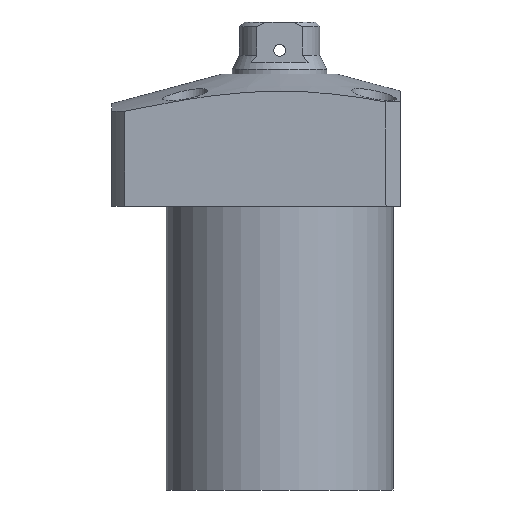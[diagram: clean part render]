
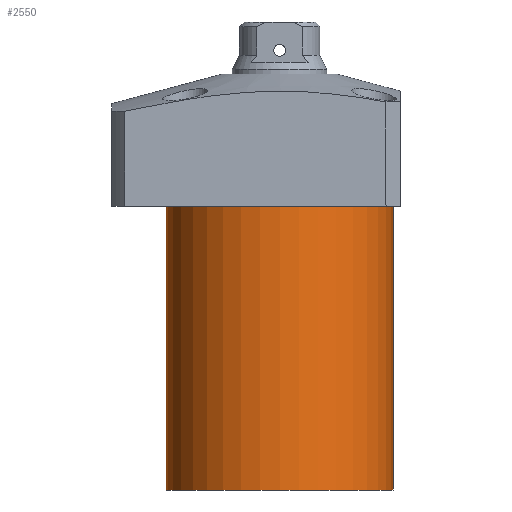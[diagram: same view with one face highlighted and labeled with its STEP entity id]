
A CAD part, front view. The second image highlights one B-rep face of the part: STEP entity #2550.
In plain terms, the highlighted cylindrical face has radius 24 mm (diameter 48 mm), a partial arc.
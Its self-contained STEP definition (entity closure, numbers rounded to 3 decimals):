
#20 = CARTESIAN_POINT ( 'NONE',  ( -24., 0., -74. ) ) ;
#39 = DIRECTION ( 'NONE',  ( 0., 0., 1. ) ) ;
#48 = VERTEX_POINT ( 'NONE', #786 ) ;
#232 = AXIS2_PLACEMENT_3D ( 'NONE', #409, #817, #1244 ) ;
#243 = ORIENTED_EDGE ( 'NONE', *, *, #276, .T. ) ;
#276 = EDGE_CURVE ( 'NONE', #2028, #1874, #2516, .T. ) ;
#409 = CARTESIAN_POINT ( 'NONE',  ( 0., 0., -74. ) ) ;
#476 = CIRCLE ( 'NONE', #232, 24. ) ;
#479 = ORIENTED_EDGE ( 'NONE', *, *, #2501, .T. ) ;
#594 = CARTESIAN_POINT ( 'NONE',  ( 24., 0., -14. ) ) ;
#674 = DIRECTION ( 'NONE',  ( 1., 0., 0. ) ) ;
#747 = VERTEX_POINT ( 'NONE', #749 ) ;
#749 = CARTESIAN_POINT ( 'NONE',  ( -24., 0., -74. ) ) ;
#752 = AXIS2_PLACEMENT_3D ( 'NONE', #885, #39, #674 ) ;
#786 = CARTESIAN_POINT ( 'NONE',  ( -24., 0., -14. ) ) ;
#817 = DIRECTION ( 'NONE',  ( 0., 0., -1. ) ) ;
#885 = CARTESIAN_POINT ( 'NONE',  ( 0., 0., -74. ) ) ;
#917 = DIRECTION ( 'NONE',  ( 0., 0., 1. ) ) ;
#988 = CARTESIAN_POINT ( 'NONE',  ( 24., 0., -74. ) ) ;
#1148 = FACE_OUTER_BOUND ( 'NONE', #2394, .T. ) ;
#1219 = AXIS2_PLACEMENT_3D ( 'NONE', #2523, #1489, #1289 ) ;
#1244 = DIRECTION ( 'NONE',  ( -1., 0., 0. ) ) ;
#1289 = DIRECTION ( 'NONE',  ( 1., 0., 0. ) ) ;
#1459 = ORIENTED_EDGE ( 'NONE', *, *, #1899, .F. ) ;
#1489 = DIRECTION ( 'NONE',  ( 0., 0., -1. ) ) ;
#1635 = DIRECTION ( 'NONE',  ( 0., 0., 1. ) ) ;
#1649 = EDGE_CURVE ( 'NONE', #2028, #747, #476, .T. ) ;
#1874 = VERTEX_POINT ( 'NONE', #594 ) ;
#1899 = EDGE_CURVE ( 'NONE', #747, #48, #1901, .T. ) ;
#1901 = LINE ( 'NONE', #20, #2135 ) ;
#2028 = VERTEX_POINT ( 'NONE', #988 ) ;
#2108 = CIRCLE ( 'NONE', #1219, 24. ) ;
#2135 = VECTOR ( 'NONE', #917, 1000. ) ;
#2189 = CYLINDRICAL_SURFACE ( 'NONE', #752, 24. ) ;
#2242 = CARTESIAN_POINT ( 'NONE',  ( 24., 0., -74. ) ) ;
#2358 = VECTOR ( 'NONE', #1635, 1000. ) ;
#2394 = EDGE_LOOP ( 'NONE', ( #1459, #2693, #243, #479 ) ) ;
#2501 = EDGE_CURVE ( 'NONE', #1874, #48, #2108, .T. ) ;
#2516 = LINE ( 'NONE', #2242, #2358 ) ;
#2523 = CARTESIAN_POINT ( 'NONE',  ( 0., 0., -14. ) ) ;
#2550 = ADVANCED_FACE ( 'NONE', ( #1148 ), #2189, .T. ) ;
#2693 = ORIENTED_EDGE ( 'NONE', *, *, #1649, .F. ) ;
